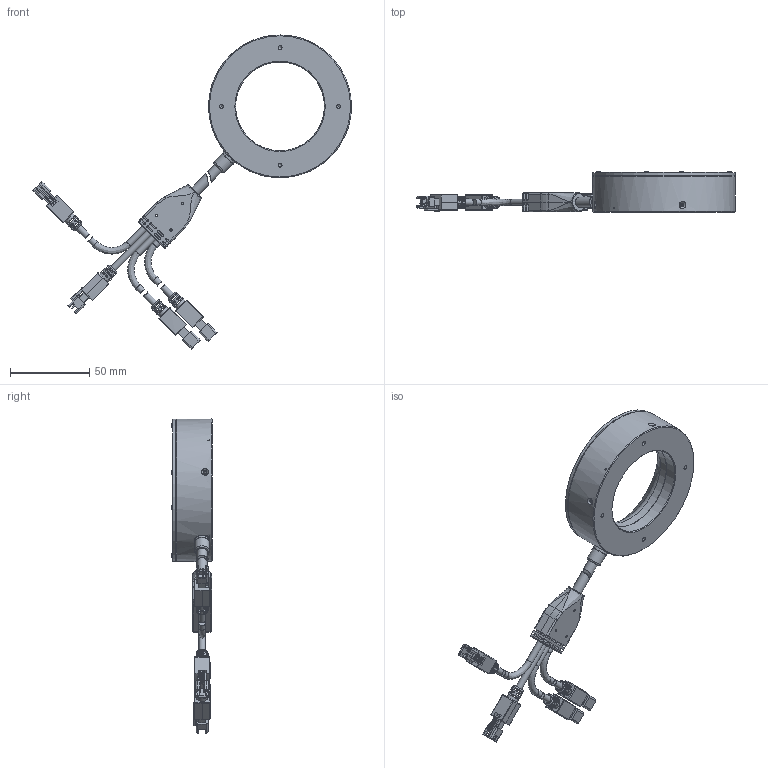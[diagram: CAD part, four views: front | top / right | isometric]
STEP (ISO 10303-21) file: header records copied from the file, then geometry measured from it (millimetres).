
FILE_DESCRIPTION (( 'STEP AP214' ), '1' );
FILE_NAME ('OPT-MSRI9045-X-V1.0U尨砩芞.STEP', '2025-02-15T03:36:45', ( '' ), ( '' ), 'SwSTEP 2.0', 'SolidWorks 2016', '' );
FILE_SCHEMA (( 'AUTOMOTIVE_DESIGN' ));
Length unit declared in the file: millimetre
Products named in the file (1): OPT-MSRI9045-X-V1.0U尨砩芞
Bounding box: 200.75 x 25.5 x 197.96 mm (x, y, z)
Surface area: 50967.9 mm2 (no closed solid volume)
Topology: 0 solids, 31 shells, 1022 faces, 2848 edges, 1840 vertices
Faces by surface type: plane 549, cylinder 327, cone 69, bspline 58, torus 19
Full cylindrical faces by diameter (mm): 1.05 x2, 1.1 x6, 1.4 x4, 1.5 x3, 1.6 x4, 1.8 x4, 2 x4, 2.4 x4, 2.5 x4, 2.6 x4, 4.1 x10, 5 x1, 6.4 x2, 7.5 x4, 8.6 x1, 9.3 x1, 9.8 x1, 56 x2, 58.6 x1, 63.4 x1, 81.8 x1, 90 x2
Entity records: 50376 total; most frequent: CARTESIAN_POINT 15076, ORIENTED_EDGE 4935, DIRECTION 4506, EDGE_CURVE 2651, VERTEX_POINT 1779, VECTOR 1612, LINE 1612, AXIS2_PLACEMENT_3D 1447
